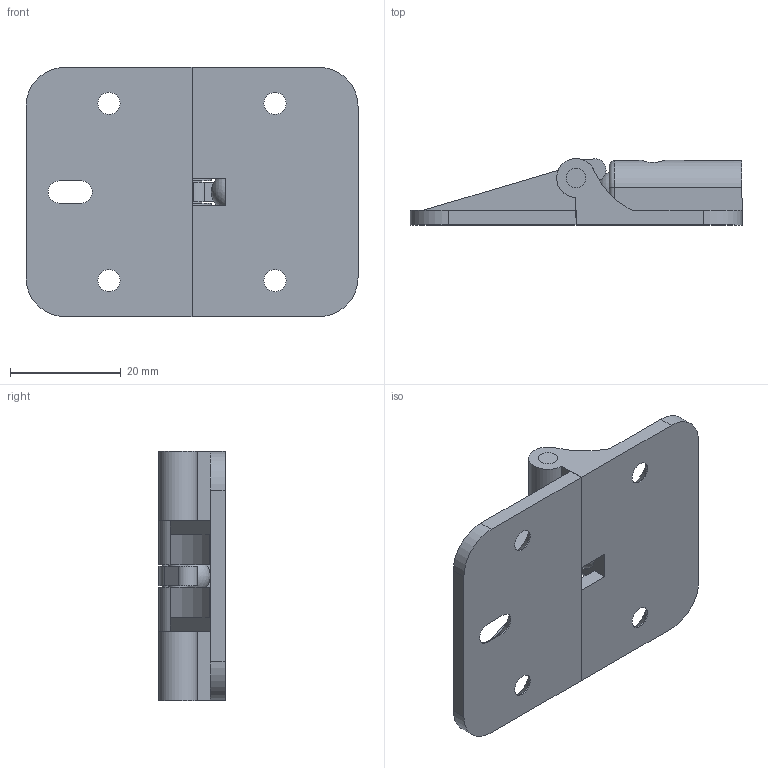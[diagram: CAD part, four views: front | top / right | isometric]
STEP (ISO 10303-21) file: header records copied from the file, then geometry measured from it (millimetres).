
FILE_DESCRIPTION(/* description */ (''),/* implementation_level */ '2;1');
FILE_NAME(/* name */ 'W:\R&D\pub\Katalog techniczny\bryły 3D\ZP-SKR-00-80.stp',/* time_stamp */ '2016-09-14T10:46:04+02:00',/* author */ ('tomaszw'),/* organization */ (''),/* preprocessor_version */ 'ST-DEVELOPER v16.1',/* originating_system */ 'Autodesk Inventor 2016',/* authorisation */ '');
FILE_SCHEMA (('AUTOMOTIVE_DESIGN { 1 0 10303 214 3 1 1 }'));
Length unit declared in the file: millimetre
Products named in the file (4): ZP-SKR-1; ZP-SKR-2; ZP-SKR-pin; ZP-SKR-00-80
Assembly tree (3 placements, depth 2):
  ZP-SKR-00-80
    ZP-SKR-1
    ZP-SKR-2
    ZP-SKR-pin
Bounding box: 60 x 12 x 45 mm (x, y, z)
Volume: 10929.4 mm3; surface area: 9748.2 mm2
Topology: 4 solids, 6 shells, 91 faces, 235 edges, 152 vertices
Faces by surface type: plane 42, cylinder 40, cone 6, sphere 2, torus 1
Full cylindrical faces by diameter (mm): 3.5 x6, 4 x5, 7 x2
Entity records: 2961 total; most frequent: CARTESIAN_POINT 574, DIRECTION 478, ORIENTED_EDGE 418, EDGE_CURVE 208, AXIS2_PLACEMENT_3D 178, VERTEX_POINT 145, EDGE_LOOP 133, LINE 122
